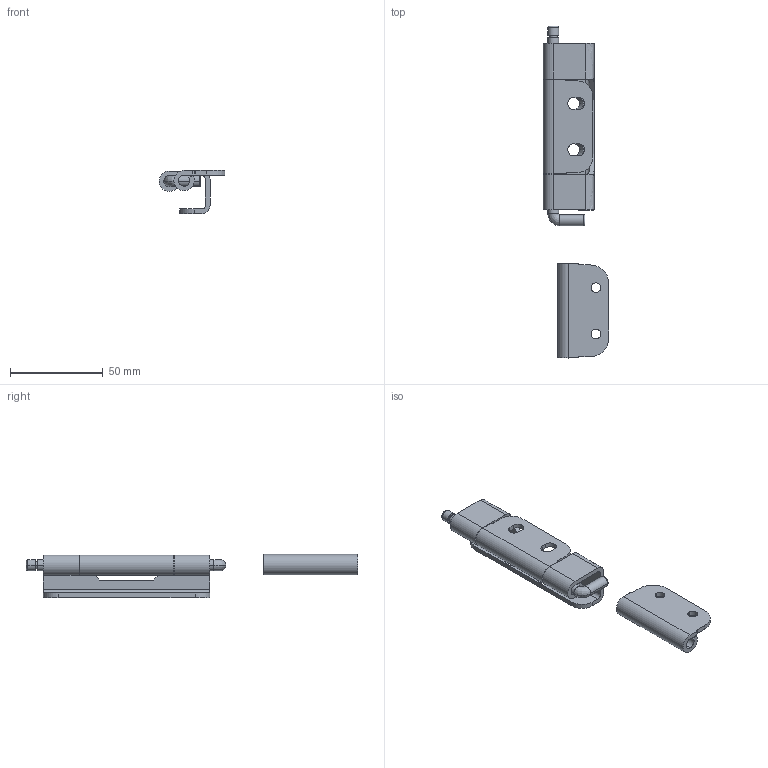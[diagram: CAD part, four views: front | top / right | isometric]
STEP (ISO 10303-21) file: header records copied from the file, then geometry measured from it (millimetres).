
FILE_DESCRIPTION(/* description */ (''),/* implementation_level */ '2;1');
FILE_NAME(/* name */ 'JL283-1',/* time_stamp */ '2026-03-04T18:45:40+08:00',/* author */ (''),/* organization */ (''),/* preprocessor_version */ 'ST-DEVELOPER v19.2',/* originating_system */ 'Rhino 8.5',/* authorisation */ '');
FILE_SCHEMA (('CONFIG_CONTROL_DESIGN'));
Length unit declared in the file: millimetre
Products named in the file (1): Document
Bounding box: 35.5 x 179.44 x 23.33 mm (x, y, z)
Volume: 23848.7 mm3; surface area: 21107.1 mm2
Topology: 4 solids, 4 shells, 106 faces, 278 edges, 182 vertices
Faces by surface type: cylinder 48, plane 42, bspline 16
Entity records: 4002 total; most frequent: CARTESIAN_POINT 1596, ORIENTED_EDGE 556, DIRECTION 318, EDGE_CURVE 278, AXIS2_PLACEMENT_3D 204, VERTEX_POINT 182, EDGE_LOOP 120, B_SPLINE_CURVE_WITH_KNOTS 116
